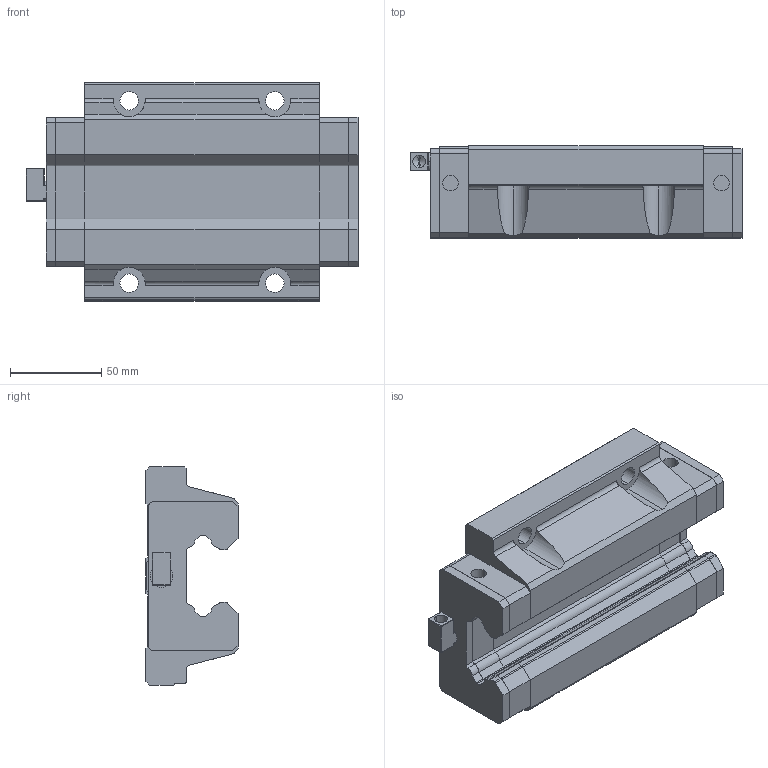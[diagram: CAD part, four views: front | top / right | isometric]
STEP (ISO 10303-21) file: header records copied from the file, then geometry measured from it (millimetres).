
FILE_DESCRIPTION (( 'STEP AP203' ), '1' );
FILE_NAME ('SGW45HA.STEP', '2025-06-27T06:25:37', ( 'Owner' ), ( 'Organization' ), 'SwSTEP 2.0', 'SolidWorks 2020', '' );
FILE_SCHEMA (( 'CONFIG_CONTROL_DESIGN' ));
Length unit declared in the file: millimetre
Products named in the file (1): SGW45HA
Bounding box: 182.2 x 50.5 x 120 mm (x, y, z)
Volume: 646860.6 mm3; surface area: 102544.9 mm2
Topology: 7 solids, 7 shells, 450 faces, 1171 edges, 747 vertices
Faces by surface type: plane 276, cylinder 132, cone 42
Entity records: 13785 total; most frequent: CARTESIAN_POINT 2566, ORIENTED_EDGE 2338, DIRECTION 2315, EDGE_CURVE 1169, VECTOR 817, LINE 817, AXIS2_PLACEMENT_3D 749, VERTEX_POINT 747
